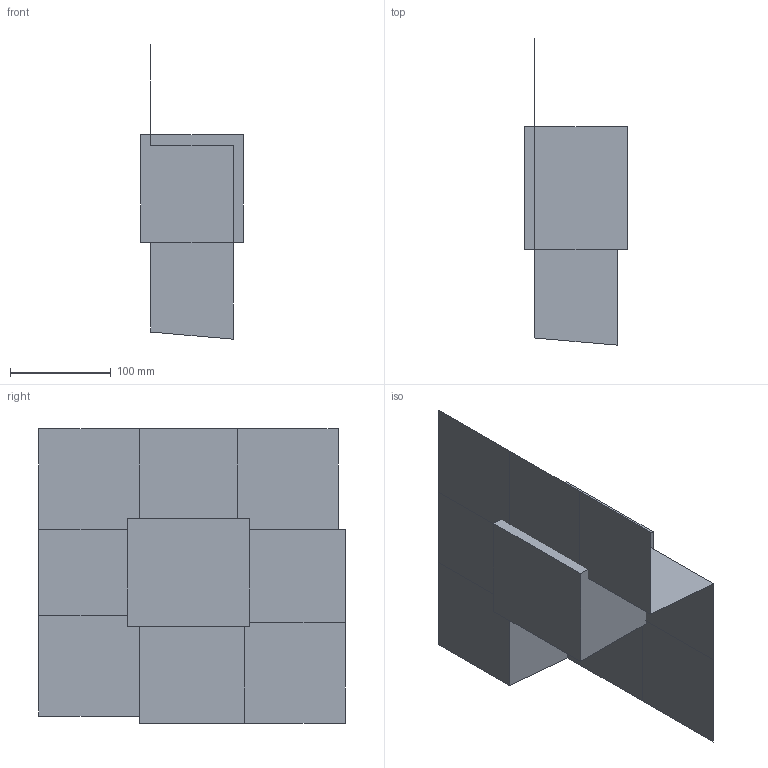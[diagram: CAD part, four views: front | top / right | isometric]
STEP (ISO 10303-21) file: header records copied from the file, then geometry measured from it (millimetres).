
FILE_DESCRIPTION(('CATIA V5 STEP Exchange'),'2;1');
FILE_NAME('C:\_Andres\UNIVERSIDAD\IQS\ASIGNATURAS\DAO\EXF\EXF-15161c\1original\Hoque_Tumanguil_Ej02-moldes_v12.stp','2016-03-04T15:45:37+00:00',('none'),('none'),'CATIA Version 5 Release 20 SP 1 (IN-10)','CATIA V5 STEP AP203','none');
FILE_SCHEMA(('CONFIG_CONTROL_DESIGN'));
Length unit declared in the file: millimetre
Products named in the file (1): Hoque_Tumanguil_Ej02-moldes_v12
Bounding box: 102 x 304.74 x 292.74 mm (x, y, z)
Volume: 2826216.3 mm3; surface area: 338102.9 mm2
Topology: 3 solids, 7 shells, 45 faces, 118 edges, 83 vertices
Faces by surface type: plane 41, cylinder 4
Entity records: 1101 total; most frequent: ORIENTED_EDGE 198, CARTESIAN_POINT 179, DIRECTION 147, EDGE_CURVE 83, VECTOR 73, LINE 73, VERTEX_POINT 56, EDGE_LOOP 49
